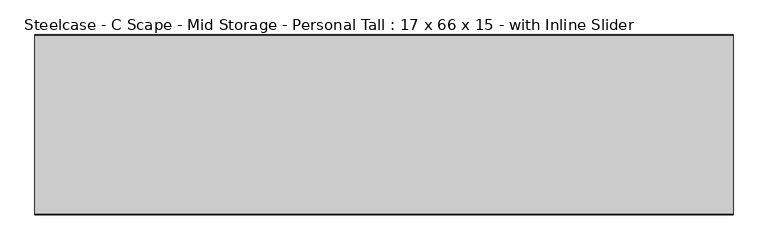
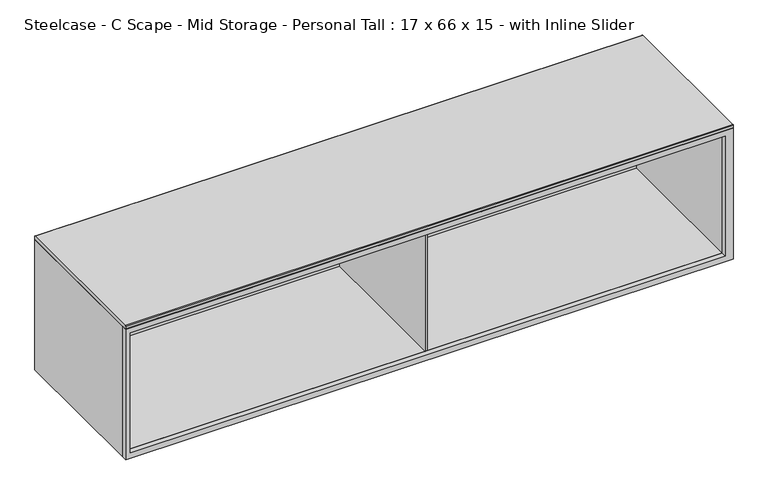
"""IFC4 building model written with IfcOpenShell, lengths in millimetres: furniture geometry, Steelcase - C Scape - Mid Storage - Personal Tall : 17 x 66 x 15 - with Inline Slider."""

import ifcopenshell
import ifcopenshell.guid

model = None  # the IFC model being written
_history = None  # IfcOwnerHistory: only IFC2X3 demands one
_inside = {}  # id of a spatial element -> (the spatial element, [elements in it])
_under = {}  # id of a project, library or spatial element -> (it, [spatial elements below it])
_declared = {}  # id of a project -> (the project, [libraries it declares])
_typed = {}  # id of a type object -> (the type object, [elements of that type])
_made_of = {}  # id of a material, layer set ... -> (it, [elements and type objects made of it])


def new_model(schema):
    """Start an empty IFC model of exactly this schema.

    Asked for "IFC4X3", IfcOpenShell would pick the latest addendum, in which some entities
    have other attributes; the version numbers below select the first issue.
    IFC2X3 requires an IfcOwnerHistory on every rooted entity: one is made here for all.
    """
    global model, _history
    if schema == "IFC4X3":
        model = ifcopenshell.file(schema_version=(4, 3, 0, 0))
    else:
        model = ifcopenshell.file(schema=schema)
    _inside.clear()
    _under.clear()
    _declared.clear()
    _typed.clear()
    _made_of.clear()
    _history = None
    if model.schema == "IFC2X3":
        org = make("IfcOrganization", Name="unknown")
        user = make(
            "IfcPersonAndOrganization",
            ThePerson=make("IfcPerson", FamilyName="unknown"),
            TheOrganization=org,
        )
        app = make(
            "IfcApplication",
            ApplicationDeveloper=org,
            Version="unknown",
            ApplicationFullName="unknown",
            ApplicationIdentifier="unknown",
        )
        _history = make(
            "IfcOwnerHistory",
            OwningUser=user,
            OwningApplication=app,
            ChangeAction="ADDED",
            CreationDate=0,
        )
    return model


def make(cls, **values):
    """One entity of the class cls with the attributes given. An attribute that is None is left unset."""
    return model.create_entity(
        cls, **{name: value for name, value in values.items() if value is not None}
    )


def rooted(cls, **values):
    """An entity with a GlobalId (a new one), such as an element, a storey or a relation."""
    return make(cls, GlobalId=ifcopenshell.guid.new(), OwnerHistory=_history, **values)


def si_unit(unit_type, name, prefix=None):
    """IfcSIUnit, for example si_unit("LENGTHUNIT", "METRE", prefix="MILLI")."""
    return make("IfcSIUnit", UnitType=unit_type, Prefix=prefix, Name=name)


def assignment(units):
    """IfcUnitAssignment: the units of a project."""
    return None if units is None else make("IfcUnitAssignment", Units=units)


def point(xyz):
    """IfcCartesianPoint."""
    return None if xyz is None else make("IfcCartesianPoint", Coordinates=xyz)


def direction(xyz):
    """IfcDirection."""
    return None if xyz is None else make("IfcDirection", DirectionRatios=xyz)


def frame(location, z_axis=None, x_axis=None):
    """IfcAxis2Placement3D, a coordinate frame: its origin and axes. An axis left out is left unset."""
    return make(
        "IfcAxis2Placement3D",
        Location=point(location),
        Axis=direction(z_axis),
        RefDirection=direction(x_axis),
    )


def frame_2d(location, x_axis=None):
    """IfcAxis2Placement2D, a coordinate frame in the plane: its origin and x axis."""
    return make(
        "IfcAxis2Placement2D", Location=point(location), RefDirection=direction(x_axis)
    )


def origin():
    """The frame at (0, 0, 0) with its axes left unset."""
    return frame((0.0, 0.0, 0.0))


def place(relative_to, where):
    """IfcLocalPlacement: puts the frame where relative to a parent placement (None: the world)."""
    return make(
        "IfcLocalPlacement", PlacementRelTo=relative_to, RelativePlacement=where
    )


def context(
    kind, dimensions, precision=None, world=None, true_north=None, identifier=None
):
    """IfcGeometricRepresentationContext, for example the 3D "Model" context."""
    return make(
        "IfcGeometricRepresentationContext",
        ContextIdentifier=identifier,
        ContextType=kind,
        CoordinateSpaceDimension=dimensions,
        Precision=precision,
        WorldCoordinateSystem=world,
        TrueNorth=true_north,
    )


def project(units=None, contexts=None):
    """IfcProject with its units and contexts."""
    return rooted(
        "IfcProject",
        Name="project",
        RepresentationContexts=contexts,
        UnitsInContext=assignment(units),
    )


def spatial(cls, under=None, at=None, **own):
    """A site, building, storey or space (cls), placed at a placement, below another one or the project."""
    s = rooted(cls, ObjectPlacement=at, **own)
    if under is not None:
        _under.setdefault(under.id(), (under, []))[1].append(s)
    return s


def polyline(points):
    """IfcPolyline through the points."""
    return make("IfcPolyline", Points=[point(p) for p in points])


def circle_curve(where, radius):
    """IfcCircle in the frame where."""
    return make("IfcCircle", Position=where, Radius=radius)


def trimmed(basis, trim1, trim2, sense, master):
    """IfcTrimmedCurve: the piece of a basis curve between two trims."""
    return make(
        "IfcTrimmedCurve",
        BasisCurve=basis,
        Trim1=trim1,
        Trim2=trim2,
        SenseAgreement=sense,
        MasterRepresentation=master,
    )


def segment(curve, same_sense, transition):
    """IfcCompositeCurveSegment."""
    return make(
        "IfcCompositeCurveSegment",
        Transition=transition,
        SameSense=same_sense,
        ParentCurve=curve,
    )


def composite_curve(segments, self_intersect=None):
    """IfcCompositeCurve: segments joined end to end."""
    return make("IfcCompositeCurve", Segments=segments, SelfIntersect=self_intersect)


def outline(outer, holes=None, kind="AREA"):
    """IfcArbitraryClosedProfileDef: a profile drawn as a closed curve; with holes, ...WithVoids."""
    if holes is None:
        return make("IfcArbitraryClosedProfileDef", ProfileType=kind, OuterCurve=outer)
    return make(
        "IfcArbitraryProfileDefWithVoids",
        ProfileType=kind,
        OuterCurve=outer,
        InnerCurves=holes,
    )


def extrude(swept, where, along, depth):
    """IfcExtrudedAreaSolid: the profile swept, set in the frame where, extruded along a direction by depth."""
    return make(
        "IfcExtrudedAreaSolid",
        SweptArea=swept,
        Position=where,
        ExtrudedDirection=direction(along),
        Depth=depth,
    )


def shape(context_of_items, identifier, shape_type, items):
    """IfcShapeRepresentation: the items that make up one representation, for example the "Body"."""
    return make(
        "IfcShapeRepresentation",
        ContextOfItems=context_of_items,
        RepresentationIdentifier=identifier,
        RepresentationType=shape_type,
        Items=items,
    )


def source(mapping_origin, context_of_items, identifier, shape_type, items):
    """IfcRepresentationMap: a shape defined once, which mapped items show again and again."""
    return make(
        "IfcRepresentationMap",
        MappingOrigin=mapping_origin,
        MappedRepresentation=shape(context_of_items, identifier, shape_type, items),
    )


def transform(
    local_origin,
    x_axis=None,
    y_axis=None,
    z_axis=None,
    scale=None,
    scale2=None,
    scale3=None,
    uniform=True,
):
    """IfcCartesianTransformationOperator3D, or its non-uniform kind. x_axis, y_axis, z_axis: its Axis1, 2, 3."""
    if uniform:
        return make(
            "IfcCartesianTransformationOperator3D",
            Axis1=direction(x_axis),
            Axis2=direction(y_axis),
            LocalOrigin=point(local_origin),
            Scale=scale,
            Axis3=direction(z_axis),
        )
    return make(
        "IfcCartesianTransformationOperator3DnonUniform",
        Axis1=direction(x_axis),
        Axis2=direction(y_axis),
        LocalOrigin=point(local_origin),
        Scale=scale,
        Axis3=direction(z_axis),
        Scale2=scale2,
        Scale3=scale3,
    )


def mapped(mapping_source, mapping_target):
    """IfcMappedItem: shows the shape of a source again, moved by a transform."""
    return make(
        "IfcMappedItem", MappingSource=mapping_source, MappingTarget=mapping_target
    )


def made_of(thing, what):
    """Note that an element or type object is made of a material, layer set ...; save() writes the relation."""
    if what is not None:
        _made_of.setdefault(what.id(), (what, []))[1].append(thing)
    return thing


def element(
    cls,
    number,
    at=None,
    inside=None,
    cuts=None,
    type_object=None,
    material=None,
    context=None,
    identifier="Body",
    shape_type=None,
    held_by="IfcProductDefinitionShape",
    body=None,
    shapes=None,
    **own,
):
    """One element of the class cls, such as IfcWall. Its Tag is "e" and its number.

    at: its placement. inside: the storey or other place that contains it. cuts: it is an
    opening in that element (IfcRelVoidsElement). A single representation is given by context,
    identifier, shape_type and body (its items); several are given by shapes. held_by: the class
    of the entity that holds the representations. save() writes the other relations.
    """
    e = rooted(cls, Tag="e%d" % number, ObjectPlacement=at, **own)
    if body is not None:
        shapes = [shape(context, identifier, shape_type, body)]
    if shapes is not None:
        e.Representation = make(held_by, Representations=shapes)
    if inside is not None:
        _inside.setdefault(inside.id(), (inside, []))[1].append(e)
    if cuts is not None:
        rooted(
            "IfcRelVoidsElement", RelatingBuildingElement=cuts, RelatedOpeningElement=e
        )
    if type_object is not None:
        _typed.setdefault(type_object.id(), (type_object, []))[1].append(e)
    return made_of(e, material)


def aggregate(whole, parts):
    """IfcRelAggregates: a whole, such as a stair, and the parts it consists of."""
    return rooted("IfcRelAggregates", RelatingObject=whole, RelatedObjects=parts)


def save(model, path):
    """Write the relations noted so far, then the file.

    IfcRelAggregates (storeys below a building ...), IfcRelContainedInSpatialStructure (elements
    in a storey), IfcRelDefinesByType, IfcRelAssociatesMaterial and IfcRelDeclares: one each for
    every whole, place, type object, material and project.
    """
    for whole, parts in _under.values():
        aggregate(whole, parts)
    for where, things in _inside.values():
        rooted(
            "IfcRelContainedInSpatialStructure",
            RelatedElements=things,
            RelatingStructure=where,
        )
    for kind, things in _typed.values():
        rooted("IfcRelDefinesByType", RelatedObjects=things, RelatingType=kind)
    for what, things in _made_of.values():
        rooted("IfcRelAssociatesMaterial", RelatedObjects=things, RelatingMaterial=what)
    for by, libraries in _declared.values():
        rooted("IfcRelDeclares", RelatingContext=by, RelatedDefinitions=libraries)
    model.write(path)


def steelcase_c_scape_mid_storage_personal_tall_17_x_66_x_15_aed5cdfa(model_context):
    return source(origin(), model_context, "Body", "SweptSolid", [
        extrude(outline(polyline([(1219.2, 1676.4), (1219.2, 0.0), (838.2, 0.0), (838.2, 1676.4), (1219.2, 1676.4)]), holes=[polyline([(1203.9092, 1654.302), (853.4399855, 1654.302), (853.4399855, 13.437709), (1203.9092, 13.437709), (1203.9092, 1654.302)])]), frame((0.0, -216.535, 0.0), z_axis=(0.0, 1.0, 0.0), x_axis=(0.0, 0.0, 1.0)), (0.0, 0.0, 1.0), 14.3764481),
        extrude(outline(polyline([(1654.302, 207.0105809), (1654.302, -187.7821039), (13.437709, -187.7821039), (13.437709, 207.0105809), (1654.302, 207.0105809)])), frame((0.0, 0.0, 1203.9600145), z_axis=(0.0, 0.0, 1.0), x_axis=(1.0, 0.0, 0.0)), (0.0, 0.0, 1.0), 15.2399855),
        extrude(outline(polyline([(1654.302, 207.0105809), (1654.302, -202.1585519), (13.437709, -202.1585519), (13.437709, 207.0105809), (1654.302, 207.0105809)])), frame((0.0, 0.0, 838.2), z_axis=(0.0, 0.0, 1.0), x_axis=(1.0, 0.0, 0.0)), (0.0, 0.0, 1.0), 15.2399855),
        extrude(outline(composite_curve([segment(polyline([(-215.265, 1229.36), (215.265, 1229.36)]), True, "CONTINUOUS"), segment(trimmed(circle_curve(frame_2d((215.265, 1228.09)), 1.27), [point((215.265, 1229.36))], [point((216.535, 1228.09))], False, "CARTESIAN"), True, "CONTINUOUS"), segment(polyline([(216.535, 1228.09), (216.535, 1220.47)]), True, "CONTINUOUS"), segment(trimmed(circle_curve(frame_2d((215.265, 1220.47)), 1.27), [point((216.535, 1220.47))], [point((215.265, 1219.2))], False, "CARTESIAN"), True, "CONTINUOUS"), segment(polyline([(215.265, 1219.2), (-215.265, 1219.2)]), True, "CONTINUOUS"), segment(trimmed(circle_curve(frame_2d((-215.265, 1220.47)), 1.27), [point((-215.265, 1219.2))], [point((-216.535, 1220.47))], False, "CARTESIAN"), True, "CONTINUOUS"), segment(polyline([(-216.535, 1220.47), (-216.535, 1228.09)]), True, "CONTINUOUS"), segment(trimmed(circle_curve(frame_2d((-215.265, 1228.09)), 1.27), [point((-216.535, 1228.09))], [point((-215.265, 1229.36))], False, "CARTESIAN"), True, "CONTINUOUS")], self_intersect=False)), frame((0.0, 0.0, 0.0), z_axis=(1.0, 0.0, 0.0), x_axis=(0.0, 1.0, 0.0)), (0.0, 0.0, 1.0), 1676.4),
        extrude(outline(polyline([(835.025, -202.1585519), (835.025, 207.0105809), (841.375, 207.0105809), (841.375, -202.1585519), (835.025, -202.1585519)])), frame((0.0, 0.0, 853.4399855), z_axis=(0.0, 0.0, 1.0), x_axis=(1.0, 0.0, 0.0)), (0.0, 0.0, 1.0), 365.7600145),
        extrude(outline(polyline([(13.437709, -202.1585519), (0.0, -202.1585519), (0.0, 216.535), (1676.4, 216.535), (1676.4, -202.1585519), (1654.302, -202.1585519), (1654.302, 207.0105809), (869.4892922, 207.0105809), (13.437709, 207.0105809), (13.437709, -202.1585519)])), frame((0.0, 0.0, 838.2), z_axis=(0.0, 0.0, 1.0), x_axis=(1.0, 0.0, 0.0)), (0.0, 0.0, 1.0), 381.0),
    ])


if __name__ == "__main__":
    model = new_model("IFC4")
    model_context = context("Model", 3, world=origin())
    ifc_project = project(units=[si_unit("LENGTHUNIT", "METRE", prefix="MILLI")], contexts=[model_context])
    site = spatial("IfcSite", under=ifc_project)
    building = spatial("IfcBuilding", under=site)
    placement = place(None, origin())
    steelcase_c_scape_mid_storage_personal_tall_17_x_66_x_15_shape = steelcase_c_scape_mid_storage_personal_tall_17_x_66_x_15_aed5cdfa(model_context)
    element("IfcFurniture", 1, ObjectType="Steelcase - C Scape - Mid Storage - Personal Tall : 17 x 66 x 15 - with Inline Slider", at=placement, inside=building, context=model_context, shape_type="MappedRepresentation", body=[
        mapped(steelcase_c_scape_mid_storage_personal_tall_17_x_66_x_15_shape, transform((0.0, 0.0, 0.0), x_axis=(1.0, 0.0, 0.0), y_axis=(0.0, 1.0, 0.0), z_axis=(0.0, 0.0, 1.0))),
    ])
    save(model, "model.ifc")
